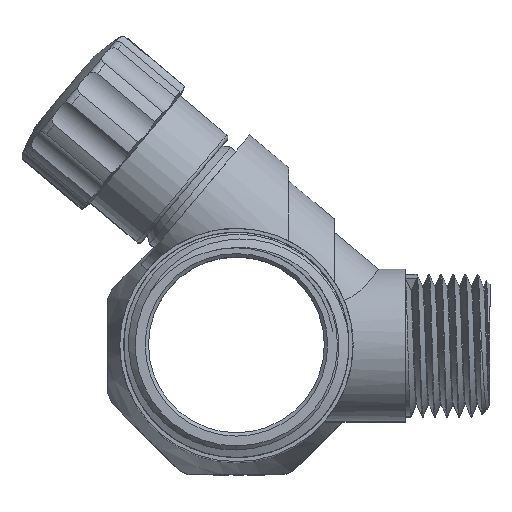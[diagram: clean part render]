
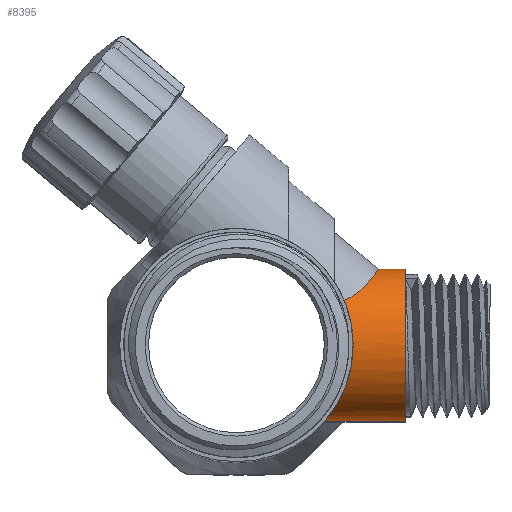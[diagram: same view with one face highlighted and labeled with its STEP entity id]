
A CAD part, top view. The second image highlights one B-rep face of the part: STEP entity #8395.
In plain terms, the highlighted cylindrical face has radius 11.25 mm (diameter 22.5 mm), a full revolution.
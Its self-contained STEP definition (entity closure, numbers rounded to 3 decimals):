
#507=CYLINDRICAL_SURFACE('',#9043,11.25);
#885=FACE_OUTER_BOUND('',#1363,.T.);
#1363=EDGE_LOOP('',(#7131,#7132,#7133,#7134,#7135,#7136,#7137));
#1700=CIRCLE('',#9028,11.25);
#1701=CIRCLE('',#9029,11.25);
#2197=B_SPLINE_CURVE_WITH_KNOTS('',3,(#23076,#23077,#23078,#23079,#23080,
#23081,#23082,#23083,#23084,#23085,#23086,#23087,#23088,#23089,#23090,#23091,
#23092,#23093,#23094,#23095,#23096,#23097),.UNSPECIFIED.,.F.,.F.,(4,2,2,
2,2,2,2,2,2,2,4),(-2.704,-2.605,-2.431,
-2.258,-1.89,-1.523,-1.156,
-0.788,-0.615,-0.441,-0.342),
 .UNSPECIFIED.);
#2198=B_SPLINE_CURVE_WITH_KNOTS('',3,(#23201,#23202,#23203,#23204,#23205,
#23206,#23207,#23208,#23209,#23210,#23211,#23212,#23213,#23214,#23215,#23216,
#23217,#23218,#23219,#23220),.UNSPECIFIED.,.F.,.F.,(4,2,2,2,2,2,2,2,2,4),
(4.592,4.847,5.066,5.285,5.504,
5.723,6.161,6.604,6.825,7.046),
 .UNSPECIFIED.);
#2199=B_SPLINE_CURVE_WITH_KNOTS('',3,(#23221,#23222,#23223,#23224,#23225,
#23226,#23227,#23228,#23229,#23230,#23231,#23232,#23233,#23234,#23235,#23236,
#23237,#23238,#23239,#23240),.UNSPECIFIED.,.F.,.F.,(4,2,2,2,2,2,2,2,2,4),
(7.046,7.268,7.489,7.931,8.37,
8.589,8.808,9.027,9.246,9.501),
 .UNSPECIFIED.);
#2655=LINE('',#23200,#3131);
#3131=VECTOR('',#10687,11.25);
#3851=VERTEX_POINT('',#23062);
#3852=VERTEX_POINT('',#23069);
#3874=VERTEX_POINT('',#23170);
#3875=VERTEX_POINT('',#23171);
#3884=VERTEX_POINT('',#23199);
#5025=EDGE_CURVE('',#3851,#3852,#2197,.T.);
#5056=EDGE_CURVE('',#3874,#3875,#1700,.T.);
#5057=EDGE_CURVE('',#3875,#3874,#1701,.T.);
#5069=EDGE_CURVE('',#3875,#3884,#2655,.T.);
#5070=EDGE_CURVE('',#3851,#3884,#2198,.T.);
#5071=EDGE_CURVE('',#3884,#3852,#2199,.T.);
#7131=ORIENTED_EDGE('',*,*,#5056,.F.);
#7132=ORIENTED_EDGE('',*,*,#5057,.F.);
#7133=ORIENTED_EDGE('',*,*,#5069,.T.);
#7134=ORIENTED_EDGE('',*,*,#5070,.F.);
#7135=ORIENTED_EDGE('',*,*,#5025,.T.);
#7136=ORIENTED_EDGE('',*,*,#5071,.F.);
#7137=ORIENTED_EDGE('',*,*,#5069,.F.);
#8395=ADVANCED_FACE('',(#885),#507,.T.);
#9028=AXIS2_PLACEMENT_3D('',#23172,#10652,#10653);
#9029=AXIS2_PLACEMENT_3D('',#23173,#10654,#10655);
#9043=AXIS2_PLACEMENT_3D('',#23198,#10685,#10686);
#10652=DIRECTION('center_axis',(1.,0.,0.));
#10653=DIRECTION('ref_axis',(0.,0.,-1.));
#10654=DIRECTION('center_axis',(1.,0.,0.));
#10655=DIRECTION('ref_axis',(0.,0.,-1.));
#10685=DIRECTION('center_axis',(1.,0.,0.));
#10686=DIRECTION('ref_axis',(0.,1.,0.));
#10687=DIRECTION('',(-1.,0.,0.));
#23062=CARTESIAN_POINT('',(15.935,6.606,6.394));
#23069=CARTESIAN_POINT('',(15.935,6.606,24.606));
#23076=CARTESIAN_POINT('Ctrl Pts',(15.935,6.606,6.394));
#23077=CARTESIAN_POINT('Ctrl Pts',(16.25,6.727,6.482));
#23078=CARTESIAN_POINT('Ctrl Pts',(16.547,6.866,6.586));
#23079=CARTESIAN_POINT('Ctrl Pts',(17.295,7.271,6.909));
#23080=CARTESIAN_POINT('Ctrl Pts',(17.761,7.594,7.186));
#23081=CARTESIAN_POINT('Ctrl Pts',(18.574,8.271,7.859));
#23082=CARTESIAN_POINT('Ctrl Pts',(18.924,8.622,8.255));
#23083=CARTESIAN_POINT('Ctrl Pts',(19.802,9.58,9.505));
#23084=CARTESIAN_POINT('Ctrl Pts',(20.251,10.199,10.588));
#23085=CARTESIAN_POINT('Ctrl Pts',(20.834,11.035,12.973));
#23086=CARTESIAN_POINT('Ctrl Pts',(20.968,11.25,14.275));
#23087=CARTESIAN_POINT('Ctrl Pts',(20.968,11.25,16.725));
#23088=CARTESIAN_POINT('Ctrl Pts',(20.834,11.035,18.027));
#23089=CARTESIAN_POINT('Ctrl Pts',(20.251,10.199,20.412));
#23090=CARTESIAN_POINT('Ctrl Pts',(19.802,9.58,21.495));
#23091=CARTESIAN_POINT('Ctrl Pts',(18.924,8.622,22.745));
#23092=CARTESIAN_POINT('Ctrl Pts',(18.574,8.271,23.141));
#23093=CARTESIAN_POINT('Ctrl Pts',(17.761,7.594,23.814));
#23094=CARTESIAN_POINT('Ctrl Pts',(17.295,7.271,24.091));
#23095=CARTESIAN_POINT('Ctrl Pts',(16.547,6.866,24.414));
#23096=CARTESIAN_POINT('Ctrl Pts',(16.25,6.727,24.518));
#23097=CARTESIAN_POINT('Ctrl Pts',(15.935,6.606,24.606));
#23170=CARTESIAN_POINT('',(25.,11.25,15.5));
#23171=CARTESIAN_POINT('',(25.,-11.25,15.5));
#23172=CARTESIAN_POINT('Origin',(25.,0.,15.5));
#23173=CARTESIAN_POINT('Origin',(25.,0.,15.5));
#23198=CARTESIAN_POINT('Origin',(12.5,0.,15.5));
#23199=CARTESIAN_POINT('',(13.077,-11.25,15.5));
#23200=CARTESIAN_POINT('',(12.5,-11.25,15.5));
#23201=CARTESIAN_POINT('Ctrl Pts',(15.935,6.606,6.394));
#23202=CARTESIAN_POINT('Ctrl Pts',(16.217,5.927,5.901));
#23203=CARTESIAN_POINT('Ctrl Pts',(16.477,5.172,5.471));
#23204=CARTESIAN_POINT('Ctrl Pts',(16.868,3.679,4.842));
#23205=CARTESIAN_POINT('Ctrl Pts',(17.012,2.953,4.619));
#23206=CARTESIAN_POINT('Ctrl Pts',(17.203,1.479,4.322));
#23207=CARTESIAN_POINT('Ctrl Pts',(17.25,0.73,4.25));
#23208=CARTESIAN_POINT('Ctrl Pts',(17.25,-0.73,
4.25));
#23209=CARTESIAN_POINT('Ctrl Pts',(17.203,-1.479,4.322));
#23210=CARTESIAN_POINT('Ctrl Pts',(17.012,-2.953,4.619));
#23211=CARTESIAN_POINT('Ctrl Pts',(16.868,-3.679,4.842));
#23212=CARTESIAN_POINT('Ctrl Pts',(16.326,-5.75,5.715));
#23213=CARTESIAN_POINT('Ctrl Pts',(15.81,-6.985,6.576));
#23214=CARTESIAN_POINT('Ctrl Pts',(14.797,-8.934,8.524));
#23215=CARTESIAN_POINT('Ctrl Pts',(14.223,-9.788,9.757));
#23216=CARTESIAN_POINT('Ctrl Pts',(13.57,-10.656,11.818));
#23217=CARTESIAN_POINT('Ctrl Pts',(13.388,-10.88,12.54));
#23218=CARTESIAN_POINT('Ctrl Pts',(13.141,-11.176,14.012));
#23219=CARTESIAN_POINT('Ctrl Pts',(13.077,-11.25,14.762));
#23220=CARTESIAN_POINT('Ctrl Pts',(13.077,-11.25,15.5));
#23221=CARTESIAN_POINT('Ctrl Pts',(13.077,-11.25,15.5));
#23222=CARTESIAN_POINT('Ctrl Pts',(13.077,-11.25,16.238));
#23223=CARTESIAN_POINT('Ctrl Pts',(13.141,-11.176,16.988));
#23224=CARTESIAN_POINT('Ctrl Pts',(13.388,-10.88,18.46));
#23225=CARTESIAN_POINT('Ctrl Pts',(13.57,-10.656,19.182));
#23226=CARTESIAN_POINT('Ctrl Pts',(14.223,-9.788,21.243));
#23227=CARTESIAN_POINT('Ctrl Pts',(14.797,-8.934,22.476));
#23228=CARTESIAN_POINT('Ctrl Pts',(15.81,-6.985,24.424));
#23229=CARTESIAN_POINT('Ctrl Pts',(16.326,-5.75,25.285));
#23230=CARTESIAN_POINT('Ctrl Pts',(16.868,-3.679,26.158));
#23231=CARTESIAN_POINT('Ctrl Pts',(17.012,-2.953,26.381));
#23232=CARTESIAN_POINT('Ctrl Pts',(17.203,-1.479,26.678));
#23233=CARTESIAN_POINT('Ctrl Pts',(17.25,-0.73,
26.75));
#23234=CARTESIAN_POINT('Ctrl Pts',(17.25,0.73,26.75));
#23235=CARTESIAN_POINT('Ctrl Pts',(17.203,1.479,26.678));
#23236=CARTESIAN_POINT('Ctrl Pts',(17.012,2.953,26.381));
#23237=CARTESIAN_POINT('Ctrl Pts',(16.868,3.679,26.158));
#23238=CARTESIAN_POINT('Ctrl Pts',(16.477,5.172,25.529));
#23239=CARTESIAN_POINT('Ctrl Pts',(16.217,5.927,25.099));
#23240=CARTESIAN_POINT('Ctrl Pts',(15.935,6.606,24.606));
